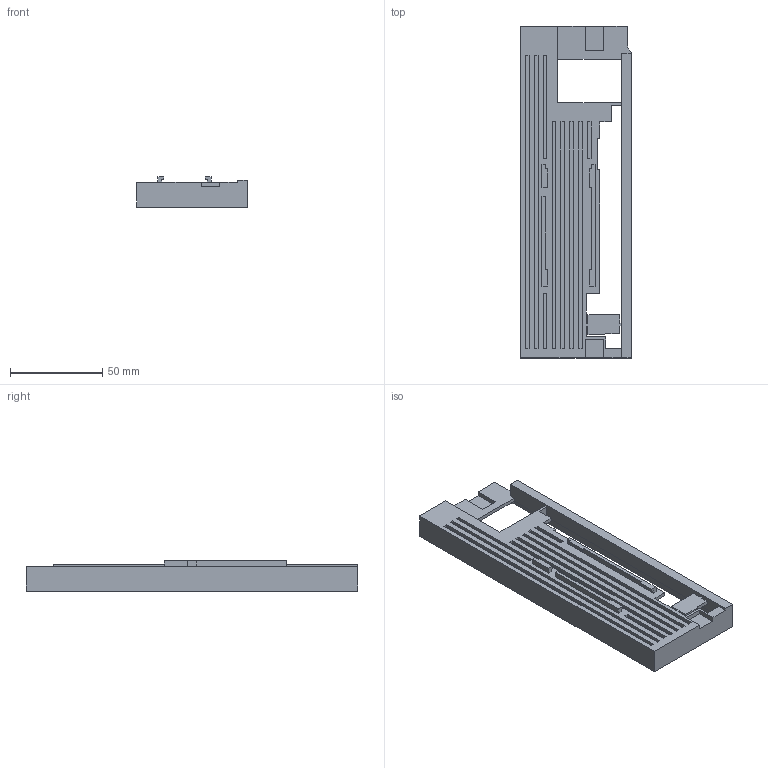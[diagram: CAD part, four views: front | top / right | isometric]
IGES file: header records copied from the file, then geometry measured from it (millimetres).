
Start section:  PTC IGES file: j4-frontpanel.igs
Global section: file name: j4-frontpanel.igs; native system: Pro/ENGINEER by Parametric Technology Corporation; preprocessor: 2010160; author: JE18792; organization: Unknown; date: 20121101.153743; units: millimetre
Bounding box: 60 x 180 x 16.5 mm (x, y, z)
Volume: 29957 mm3; surface area: 34382.2 mm2
Topology: 1 solids, 1 shells, 143 faces, 396 edges, 264 vertices
Faces by surface type: bspline 143
